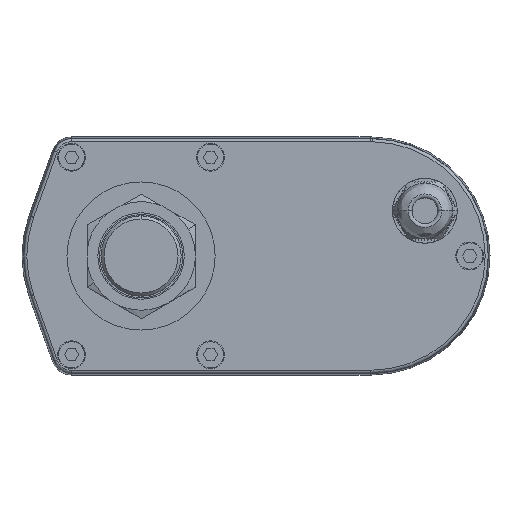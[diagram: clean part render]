
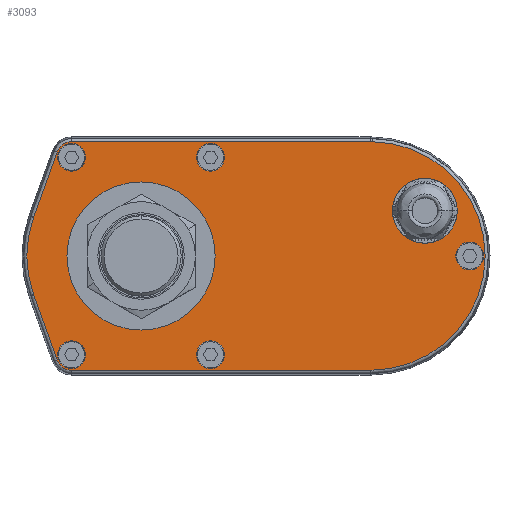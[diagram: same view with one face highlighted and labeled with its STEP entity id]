
A CAD part, left-side view. The second image highlights one B-rep face of the part: STEP entity #3093.
In plain terms, the highlighted planar face has unit normal (-1, 0, 0).
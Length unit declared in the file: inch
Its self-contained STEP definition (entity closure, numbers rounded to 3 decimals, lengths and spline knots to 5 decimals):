
#3093=ADVANCED_FACE('',(#6281,#6282,#6283,#6284,#6285,#6286,#6287,#6288),#6289,.F.);
#6281=FACE_OUTER_BOUND('',#12908,.T.);
#6282=FACE_BOUND('',#12909,.T.);
#6283=FACE_BOUND('',#12910,.T.);
#6284=FACE_BOUND('',#12911,.T.);
#6285=FACE_BOUND('',#12912,.T.);
#6286=FACE_BOUND('',#12913,.T.);
#6287=FACE_BOUND('',#12914,.T.);
#6288=FACE_BOUND('',#12915,.T.);
#6289=PLANE('',#12916);
#12908=EDGE_LOOP('',(#21766,#21767,#21768,#21769,#21770,#21771,#21772,#21773,#21774));
#12909=EDGE_LOOP('',(#21775,#21776));
#12910=EDGE_LOOP('',(#21777,#21778));
#12911=EDGE_LOOP('',(#21779,#21780));
#12912=EDGE_LOOP('',(#21781,#21782));
#12913=EDGE_LOOP('',(#21783,#21784));
#12914=EDGE_LOOP('',(#21785,#21786));
#12915=EDGE_LOOP('',(#21787,#21788));
#12916=AXIS2_PLACEMENT_3D('',#21789,#21790,#21791);
#21766=ORIENTED_EDGE('',*,*,#23230,.T.);
#21767=ORIENTED_EDGE('',*,*,#23553,.T.);
#21768=ORIENTED_EDGE('',*,*,#26416,.T.);
#21769=ORIENTED_EDGE('',*,*,#24284,.T.);
#21770=ORIENTED_EDGE('',*,*,#23815,.T.);
#21771=ORIENTED_EDGE('',*,*,#25218,.T.);
#21772=ORIENTED_EDGE('',*,*,#26128,.T.);
#21773=ORIENTED_EDGE('',*,*,#24337,.T.);
#21774=ORIENTED_EDGE('',*,*,#24548,.T.);
#21775=ORIENTED_EDGE('',*,*,#26424,.F.);
#21776=ORIENTED_EDGE('',*,*,#25920,.F.);
#21777=ORIENTED_EDGE('',*,*,#25481,.F.);
#21778=ORIENTED_EDGE('',*,*,#25128,.F.);
#21779=ORIENTED_EDGE('',*,*,#25886,.F.);
#21780=ORIENTED_EDGE('',*,*,#26425,.F.);
#21781=ORIENTED_EDGE('',*,*,#26385,.F.);
#21782=ORIENTED_EDGE('',*,*,#24530,.F.);
#21783=ORIENTED_EDGE('',*,*,#25429,.F.);
#21784=ORIENTED_EDGE('',*,*,#26426,.F.);
#21785=ORIENTED_EDGE('',*,*,#25016,.F.);
#21786=ORIENTED_EDGE('',*,*,#26080,.F.);
#21787=ORIENTED_EDGE('',*,*,#26076,.F.);
#21788=ORIENTED_EDGE('',*,*,#26286,.F.);
#21789=CARTESIAN_POINT('',(-3.85039,0.,0.));
#21790=DIRECTION('',(1.0,0.0,0.0));
#21791=DIRECTION('',(0.0,1.0,-0.0));
#23230=EDGE_CURVE('',#27040,#27045,#27047,.T.);
#23553=EDGE_CURVE('',#27045,#27603,#27605,.T.);
#23815=EDGE_CURVE('',#28043,#28048,#28050,.T.);
#24284=EDGE_CURVE('',#28791,#28043,#28795,.T.);
#24337=EDGE_CURVE('',#28875,#28877,#28879,.T.);
#24530=EDGE_CURVE('',#29187,#29182,#29189,.T.);
#24548=EDGE_CURVE('',#28877,#27040,#29214,.T.);
#25016=EDGE_CURVE('',#29882,#29880,#29884,.T.);
#25128=EDGE_CURVE('',#30048,#30043,#30050,.T.);
#25218=EDGE_CURVE('',#28048,#30169,#30171,.T.);
#25429=EDGE_CURVE('',#30450,#30447,#30452,.T.);
#25481=EDGE_CURVE('',#30043,#30048,#30529,.T.);
#25886=EDGE_CURVE('',#31038,#31036,#31040,.T.);
#25920=EDGE_CURVE('',#31082,#31077,#31084,.T.);
#26076=EDGE_CURVE('',#31262,#31260,#31264,.T.);
#26080=EDGE_CURVE('',#29880,#29882,#31268,.T.);
#26128=EDGE_CURVE('',#30169,#28875,#31326,.T.);
#26286=EDGE_CURVE('',#31260,#31262,#31496,.T.);
#26385=EDGE_CURVE('',#29182,#29187,#31602,.T.);
#26416=EDGE_CURVE('',#27603,#28791,#31638,.T.);
#26424=EDGE_CURVE('',#31077,#31082,#31646,.T.);
#26425=EDGE_CURVE('',#31036,#31038,#31647,.T.);
#26426=EDGE_CURVE('',#30447,#30450,#31648,.T.);
#27040=VERTEX_POINT('',#32537);
#27045=VERTEX_POINT('',#32543);
#27047=LINE('',#32545,#32546);
#27603=VERTEX_POINT('',#33505);
#27605=CIRCLE('',#33507,1.45737);
#28043=VERTEX_POINT('',#34257);
#28048=VERTEX_POINT('',#34263);
#28050=LINE('',#34265,#34266);
#28791=VERTEX_POINT('',#35473);
#28795=CIRCLE('',#35477,0.19753);
#28875=VERTEX_POINT('',#35637);
#28877=VERTEX_POINT('',#35639);
#28879=LINE('',#35641,#35642);
#29182=VERTEX_POINT('',#36260);
#29187=VERTEX_POINT('',#36266);
#29189=CIRCLE('',#36269,0.17717);
#29214=CIRCLE('',#36310,0.19753);
#29880=VERTEX_POINT('',#37371);
#29882=VERTEX_POINT('',#37374);
#29884=CIRCLE('',#37377,0.17717);
#30043=VERTEX_POINT('',#37644);
#30048=VERTEX_POINT('',#37650);
#30050=CIRCLE('',#37653,0.17717);
#30169=VERTEX_POINT('',#37844);
#30171=CIRCLE('',#37846,1.45737);
#30447=VERTEX_POINT('',#38281);
#30450=VERTEX_POINT('',#38285);
#30452=CIRCLE('',#38288,0.17717);
#30529=CIRCLE('',#38386,0.17717);
#31036=VERTEX_POINT('',#39299);
#31038=VERTEX_POINT('',#39302);
#31040=CIRCLE('',#39305,0.17717);
#31077=VERTEX_POINT('',#39392);
#31082=VERTEX_POINT('',#39398);
#31084=CIRCLE('',#39401,0.94488);
#31260=VERTEX_POINT('',#39747);
#31262=VERTEX_POINT('',#39750);
#31264=CIRCLE('',#39753,0.24606);
#31268=CIRCLE('',#39765,0.17717);
#31326=CIRCLE('',#39853,1.45737);
#31496=CIRCLE('',#40160,0.24606);
#31602=CIRCLE('',#40317,0.17717);
#31638=LINE('',#40367,#40368);
#31646=CIRCLE('',#40376,0.94488);
#31647=CIRCLE('',#40377,0.17717);
#31648=CIRCLE('',#40378,0.17717);
#32537=CARTESIAN_POINT('',(-3.85039,1.07171,1.32668));
#32543=CARTESIAN_POINT('',(-3.85039,1.37142,0.49309));
#32545=CARTESIAN_POINT('',(-3.85039,1.07171,1.32668));
#32546=VECTOR('',#40969,0.88583);
#33505=CARTESIAN_POINT('',(-3.85039,1.37142,-0.49309));
#33507=AXIS2_PLACEMENT_3D('',#41378,#41379,#41380);
#34257=CARTESIAN_POINT('',(-3.85039,0.88583,-1.45737));
#34263=CARTESIAN_POINT('',(-3.85039,-2.93307,-1.45737));
#34265=CARTESIAN_POINT('',(-3.85039,0.88583,-1.45737));
#34266=VECTOR('',#41730,3.8189);
#35473=CARTESIAN_POINT('',(-3.85039,1.07171,-1.32668));
#35477=AXIS2_PLACEMENT_3D('',#42374,#42375,#42376);
#35637=CARTESIAN_POINT('',(-3.85039,-2.93307,1.45737));
#35639=CARTESIAN_POINT('',(-3.85039,0.88583,1.45737));
#35641=CARTESIAN_POINT('',(-3.85039,-2.93307,1.45737));
#35642=VECTOR('',#42449,3.8189);
#36260=CARTESIAN_POINT('',(-3.85039,-0.88583,-1.43701));
#36266=CARTESIAN_POINT('',(-3.85039,-0.88583,-1.08268));
#36269=AXIS2_PLACEMENT_3D('',#42646,#42647,#42648);
#36310=AXIS2_PLACEMENT_3D('',#42667,#42668,#42669);
#37371=CARTESIAN_POINT('',(-3.85039,-4.19291,0.17717));
#37374=CARTESIAN_POINT('',(-3.85039,-4.19291,-0.17717));
#37377=AXIS2_PLACEMENT_3D('',#43331,#43332,#43333);
#37644=CARTESIAN_POINT('',(-3.85039,0.88583,1.08268));
#37650=CARTESIAN_POINT('',(-3.85039,0.88583,1.43701));
#37653=AXIS2_PLACEMENT_3D('',#43460,#43461,#43462);
#37844=CARTESIAN_POINT('',(-3.85039,-2.94857,1.45729));
#37846=AXIS2_PLACEMENT_3D('',#43564,#43565,#43566);
#38281=CARTESIAN_POINT('',(-3.85039,0.88583,-1.08268));
#38285=CARTESIAN_POINT('',(-3.85039,0.88583,-1.43701));
#38288=AXIS2_PLACEMENT_3D('',#43826,#43827,#43828);
#38386=AXIS2_PLACEMENT_3D('',#43910,#43911,#43912);
#39299=CARTESIAN_POINT('',(-3.85039,-0.88583,1.43701));
#39302=CARTESIAN_POINT('',(-3.85039,-0.88583,1.08268));
#39305=AXIS2_PLACEMENT_3D('',#44340,#44341,#44342);
#39392=CARTESIAN_POINT('',(-3.85039,0.,-0.94488));
#39398=CARTESIAN_POINT('',(-3.85039,0.,0.94488));
#39401=AXIS2_PLACEMENT_3D('',#44366,#44367,#44368);
#39747=CARTESIAN_POINT('',(-3.85039,-3.6207,0.82305));
#39750=CARTESIAN_POINT('',(-3.85039,-3.6207,0.33093));
#39753=AXIS2_PLACEMENT_3D('',#44531,#44532,#44533);
#39765=AXIS2_PLACEMENT_3D('',#44534,#44535,#44536);
#39853=AXIS2_PLACEMENT_3D('',#44583,#44584,#44585);
#40160=AXIS2_PLACEMENT_3D('',#44726,#44727,#44728);
#40317=AXIS2_PLACEMENT_3D('',#44798,#44799,#44800);
#40367=CARTESIAN_POINT('',(-3.85039,1.37142,-0.49309));
#40368=VECTOR('',#44825,0.88583);
#40376=AXIS2_PLACEMENT_3D('',#44835,#44836,#44837);
#40377=AXIS2_PLACEMENT_3D('',#44838,#44839,#44840);
#40378=AXIS2_PLACEMENT_3D('',#44841,#44842,#44843);
#40969=DIRECTION('',(0.0,0.338,-0.941));
#41378=CARTESIAN_POINT('',(-3.85039,0.,0.));
#41379=DIRECTION('',(-1.0,0.0,0.0));
#41380=DIRECTION('',(0.0,0.941,0.338));
#41730=DIRECTION('',(0.0,-1.0,0.0));
#42374=CARTESIAN_POINT('',(-3.85039,0.88583,-1.25984));
#42375=DIRECTION('',(-1.0,0.0,0.0));
#42376=DIRECTION('',(0.0,0.941,-0.338));
#42449=DIRECTION('',(0.0,1.0,0.0));
#42646=CARTESIAN_POINT('',(-3.85039,-0.88583,-1.25984));
#42647=DIRECTION('',(-1.0,0.0,0.0));
#42648=DIRECTION('',(0.0,0.0,1.0));
#42667=CARTESIAN_POINT('',(-3.85039,0.88583,1.25984));
#42668=DIRECTION('',(-1.0,0.0,0.0));
#42669=DIRECTION('',(0.0,0.0,1.0));
#43331=CARTESIAN_POINT('',(-3.85039,-4.19291,0.));
#43332=DIRECTION('',(-1.0,0.0,0.0));
#43333=DIRECTION('',(0.0,0.0,-1.0));
#43460=CARTESIAN_POINT('',(-3.85039,0.88583,1.25984));
#43461=DIRECTION('',(-1.0,0.0,0.0));
#43462=DIRECTION('',(0.0,0.0,1.0));
#43564=CARTESIAN_POINT('',(-3.85039,-2.93307,0.));
#43565=DIRECTION('',(-1.0,0.0,0.0));
#43566=DIRECTION('',(0.0,0.0,-1.0));
#43826=CARTESIAN_POINT('',(-3.85039,0.88583,-1.25984));
#43827=DIRECTION('',(-1.0,0.0,0.0));
#43828=DIRECTION('',(0.0,0.0,-1.0));
#43910=CARTESIAN_POINT('',(-3.85039,0.88583,1.25984));
#43911=DIRECTION('',(-1.0,0.0,0.0));
#43912=DIRECTION('',(0.0,0.0,-1.0));
#44340=CARTESIAN_POINT('',(-3.85039,-0.88583,1.25984));
#44341=DIRECTION('',(-1.0,0.0,0.0));
#44342=DIRECTION('',(0.0,0.0,-1.0));
#44366=CARTESIAN_POINT('',(-3.85039,0.,0.));
#44367=DIRECTION('',(-1.0,0.0,0.0));
#44368=DIRECTION('',(0.0,0.0,1.0));
#44531=CARTESIAN_POINT('',(-3.85039,-3.6207,0.57699));
#44532=DIRECTION('',(-1.0,0.0,0.0));
#44533=DIRECTION('',(0.0,0.0,-1.0));
#44534=CARTESIAN_POINT('',(-3.85039,-4.19291,0.));
#44535=DIRECTION('',(-1.0,0.0,0.0));
#44536=DIRECTION('',(0.0,0.0,1.0));
#44583=CARTESIAN_POINT('',(-3.85039,-2.93307,0.));
#44584=DIRECTION('',(-1.0,0.0,0.0));
#44585=DIRECTION('',(0.0,0.0,-1.0));
#44726=CARTESIAN_POINT('',(-3.85039,-3.6207,0.57699));
#44727=DIRECTION('',(-1.0,0.0,0.0));
#44728=DIRECTION('',(0.0,0.0,1.0));
#44798=CARTESIAN_POINT('',(-3.85039,-0.88583,-1.25984));
#44799=DIRECTION('',(-1.0,0.0,0.0));
#44800=DIRECTION('',(0.0,0.0,-1.0));
#44825=DIRECTION('',(0.0,-0.338,-0.941));
#44835=CARTESIAN_POINT('',(-3.85039,0.,0.));
#44836=DIRECTION('',(-1.0,0.0,0.0));
#44837=DIRECTION('',(0.0,0.0,-1.0));
#44838=CARTESIAN_POINT('',(-3.85039,-0.88583,1.25984));
#44839=DIRECTION('',(-1.0,0.0,0.0));
#44840=DIRECTION('',(0.0,0.0,1.0));
#44841=CARTESIAN_POINT('',(-3.85039,0.88583,-1.25984));
#44842=DIRECTION('',(-1.0,0.0,0.0));
#44843=DIRECTION('',(0.0,0.0,1.0));
